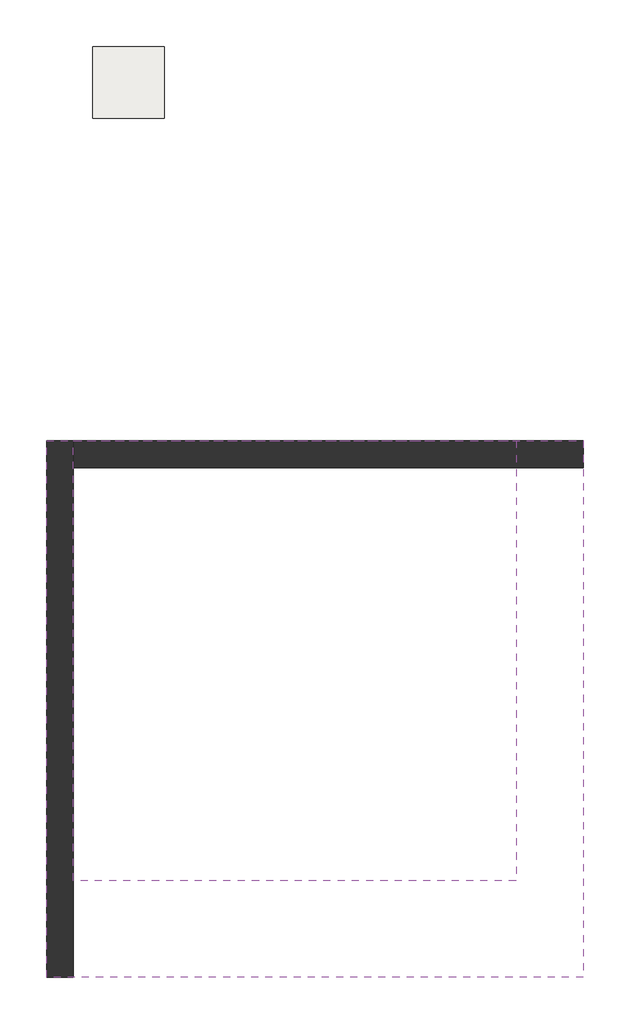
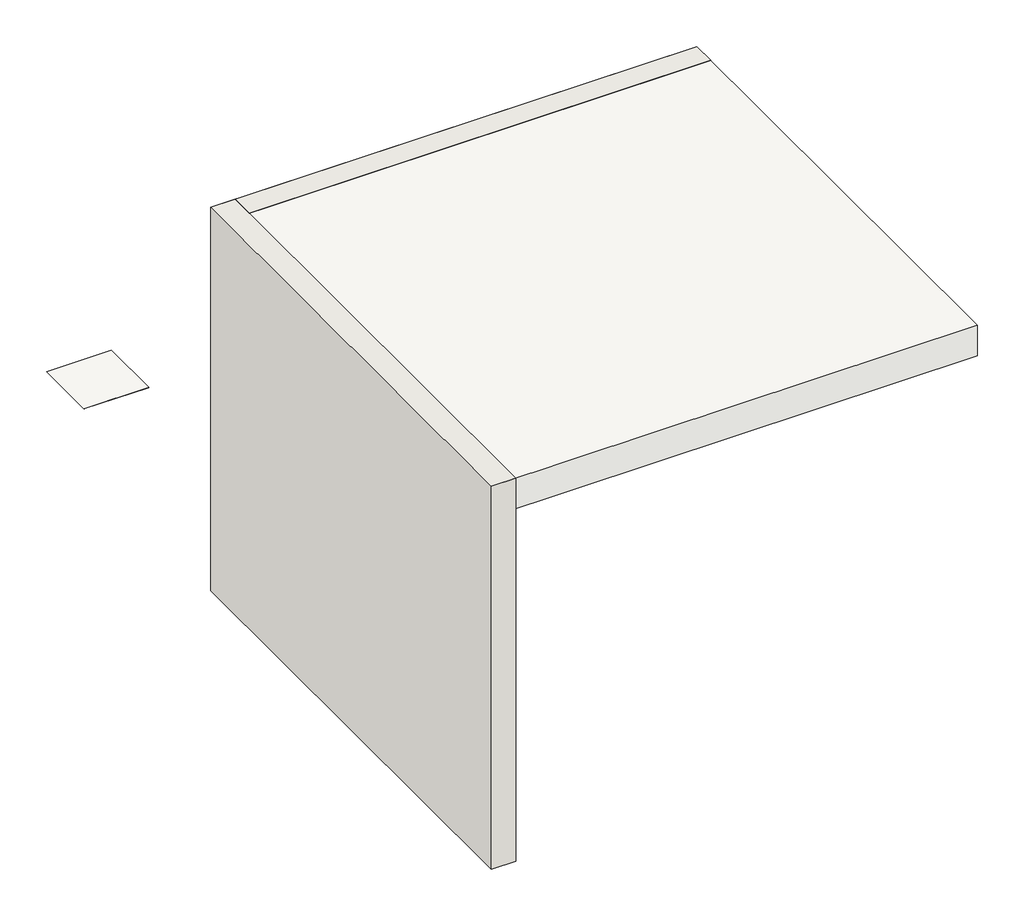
# One storey: 2 walls, 1 covering, 1 proxy, 1 slab.
"""IFC4 building model written with IfcOpenShell, lengths in millimetres."""

import ifcopenshell
import ifcopenshell.guid

model = None  # the IFC model being written
_history = None  # IfcOwnerHistory: only IFC2X3 demands one
_inside = {}  # id of a spatial element -> (the spatial element, [elements in it])
_under = {}  # id of a project, library or spatial element -> (it, [spatial elements below it])
_declared = {}  # id of a project -> (the project, [libraries it declares])
_typed = {}  # id of a type object -> (the type object, [elements of that type])
_made_of = {}  # id of a material, layer set ... -> (it, [elements and type objects made of it])


def new_model(schema):
    """Start an empty IFC model of exactly this schema.

    Asked for "IFC4X3", IfcOpenShell would pick the latest addendum, in which some entities
    have other attributes; the version numbers below select the first issue.
    IFC2X3 requires an IfcOwnerHistory on every rooted entity: one is made here for all.
    """
    global model, _history
    if schema == "IFC4X3":
        model = ifcopenshell.file(schema_version=(4, 3, 0, 0))
    else:
        model = ifcopenshell.file(schema=schema)
    _inside.clear()
    _under.clear()
    _declared.clear()
    _typed.clear()
    _made_of.clear()
    _history = None
    if model.schema == "IFC2X3":
        org = make("IfcOrganization", Name="unknown")
        user = make(
            "IfcPersonAndOrganization",
            ThePerson=make("IfcPerson", FamilyName="unknown"),
            TheOrganization=org,
        )
        app = make(
            "IfcApplication",
            ApplicationDeveloper=org,
            Version="unknown",
            ApplicationFullName="unknown",
            ApplicationIdentifier="unknown",
        )
        _history = make(
            "IfcOwnerHistory",
            OwningUser=user,
            OwningApplication=app,
            ChangeAction="ADDED",
            CreationDate=0,
        )
    return model


def make(cls, **values):
    """One entity of the class cls with the attributes given. An attribute that is None is left unset."""
    return model.create_entity(
        cls, **{name: value for name, value in values.items() if value is not None}
    )


def rooted(cls, **values):
    """An entity with a GlobalId (a new one), such as an element, a storey or a relation."""
    return make(cls, GlobalId=ifcopenshell.guid.new(), OwnerHistory=_history, **values)


def si_unit(unit_type, name, prefix=None):
    """IfcSIUnit, for example si_unit("LENGTHUNIT", "METRE", prefix="MILLI")."""
    return make("IfcSIUnit", UnitType=unit_type, Prefix=prefix, Name=name)


def assignment(units):
    """IfcUnitAssignment: the units of a project."""
    return None if units is None else make("IfcUnitAssignment", Units=units)


def point(xyz):
    """IfcCartesianPoint."""
    return None if xyz is None else make("IfcCartesianPoint", Coordinates=xyz)


def direction(xyz):
    """IfcDirection."""
    return None if xyz is None else make("IfcDirection", DirectionRatios=xyz)


def frame(location, z_axis=None, x_axis=None):
    """IfcAxis2Placement3D, a coordinate frame: its origin and axes. An axis left out is left unset."""
    return make(
        "IfcAxis2Placement3D",
        Location=point(location),
        Axis=direction(z_axis),
        RefDirection=direction(x_axis),
    )


def origin():
    """The frame at (0, 0, 0) with its axes left unset."""
    return frame((0.0, 0.0, 0.0))


def place(relative_to, where):
    """IfcLocalPlacement: puts the frame where relative to a parent placement (None: the world)."""
    return make(
        "IfcLocalPlacement", PlacementRelTo=relative_to, RelativePlacement=where
    )


def context(
    kind, dimensions, precision=None, world=None, true_north=None, identifier=None
):
    """IfcGeometricRepresentationContext, for example the 3D "Model" context."""
    return make(
        "IfcGeometricRepresentationContext",
        ContextIdentifier=identifier,
        ContextType=kind,
        CoordinateSpaceDimension=dimensions,
        Precision=precision,
        WorldCoordinateSystem=world,
        TrueNorth=true_north,
    )


def project(units=None, contexts=None):
    """IfcProject with its units and contexts."""
    return rooted(
        "IfcProject",
        Name="project",
        RepresentationContexts=contexts,
        UnitsInContext=assignment(units),
    )


def spatial(cls, under=None, at=None, **own):
    """A site, building, storey or space (cls), placed at a placement, below another one or the project."""
    s = rooted(cls, ObjectPlacement=at, **own)
    if under is not None:
        _under.setdefault(under.id(), (under, []))[1].append(s)
    return s


def polyline(points):
    """IfcPolyline through the points."""
    return make("IfcPolyline", Points=[point(p) for p in points])


def outline(outer, holes=None, kind="AREA"):
    """IfcArbitraryClosedProfileDef: a profile drawn as a closed curve; with holes, ...WithVoids."""
    if holes is None:
        return make("IfcArbitraryClosedProfileDef", ProfileType=kind, OuterCurve=outer)
    return make(
        "IfcArbitraryProfileDefWithVoids",
        ProfileType=kind,
        OuterCurve=outer,
        InnerCurves=holes,
    )


def extrude(swept, where, along, depth):
    """IfcExtrudedAreaSolid: the profile swept, set in the frame where, extruded along a direction by depth."""
    return make(
        "IfcExtrudedAreaSolid",
        SweptArea=swept,
        Position=where,
        ExtrudedDirection=direction(along),
        Depth=depth,
    )


def faces_of(points, faces, orient=None, outer=None):
    """IfcFace entities. A face is a list of loops; a loop is a list of indices into points, from 0.

    orient and outer hold one flag for each loop. By default every Orientation is true, the
    first loop of a face is its IfcFaceOuterBound and the others are IfcFaceBound.
    """
    made = []
    for i, loops in enumerate(faces):
        bounds = []
        for j, loop in enumerate(loops):
            is_outer = j == 0 if outer is None else outer[i][j]
            bounds.append(
                make(
                    "IfcFaceOuterBound" if is_outer else "IfcFaceBound",
                    Bound=make("IfcPolyLoop", Polygon=[points[k] for k in loop]),
                    Orientation=True if orient is None else orient[i][j],
                )
            )
        made.append(make("IfcFace", Bounds=bounds))
    return made


def faceted_brep(points, faces, orient=None, outer=None, voids=None):
    """IfcFacetedBrep: a solid bounded by flat faces; with voids (closed shells), ...WithVoids."""
    shared = [point(p) for p in points]
    hull = make("IfcClosedShell", CfsFaces=faces_of(shared, faces, orient, outer))
    if voids is None:
        return make("IfcFacetedBrep", Outer=hull)
    return make(
        "IfcFacetedBrepWithVoids",
        Outer=hull,
        Voids=[
            make(cls, CfsFaces=faces_of(shared, fs, o, b)) for cls, fs, o, b in voids
        ],
    )


def shape(context_of_items, identifier, shape_type, items):
    """IfcShapeRepresentation: the items that make up one representation, for example the "Body"."""
    return make(
        "IfcShapeRepresentation",
        ContextOfItems=context_of_items,
        RepresentationIdentifier=identifier,
        RepresentationType=shape_type,
        Items=items,
    )


def source(mapping_origin, context_of_items, identifier, shape_type, items):
    """IfcRepresentationMap: a shape defined once, which mapped items show again and again."""
    return make(
        "IfcRepresentationMap",
        MappingOrigin=mapping_origin,
        MappedRepresentation=shape(context_of_items, identifier, shape_type, items),
    )


def transform(
    local_origin,
    x_axis=None,
    y_axis=None,
    z_axis=None,
    scale=None,
    scale2=None,
    scale3=None,
    uniform=True,
):
    """IfcCartesianTransformationOperator3D, or its non-uniform kind. x_axis, y_axis, z_axis: its Axis1, 2, 3."""
    if uniform:
        return make(
            "IfcCartesianTransformationOperator3D",
            Axis1=direction(x_axis),
            Axis2=direction(y_axis),
            LocalOrigin=point(local_origin),
            Scale=scale,
            Axis3=direction(z_axis),
        )
    return make(
        "IfcCartesianTransformationOperator3DnonUniform",
        Axis1=direction(x_axis),
        Axis2=direction(y_axis),
        LocalOrigin=point(local_origin),
        Scale=scale,
        Axis3=direction(z_axis),
        Scale2=scale2,
        Scale3=scale3,
    )


def mapped(mapping_source, mapping_target):
    """IfcMappedItem: shows the shape of a source again, moved by a transform."""
    return make(
        "IfcMappedItem", MappingSource=mapping_source, MappingTarget=mapping_target
    )


def made_of(thing, what):
    """Note that an element or type object is made of a material, layer set ...; save() writes the relation."""
    if what is not None:
        _made_of.setdefault(what.id(), (what, []))[1].append(thing)
    return thing


def element(
    cls,
    number,
    at=None,
    inside=None,
    cuts=None,
    type_object=None,
    material=None,
    context=None,
    identifier="Body",
    shape_type=None,
    held_by="IfcProductDefinitionShape",
    body=None,
    shapes=None,
    **own,
):
    """One element of the class cls, such as IfcWall. Its Tag is "e" and its number.

    at: its placement. inside: the storey or other place that contains it. cuts: it is an
    opening in that element (IfcRelVoidsElement). A single representation is given by context,
    identifier, shape_type and body (its items); several are given by shapes. held_by: the class
    of the entity that holds the representations. save() writes the other relations.
    """
    e = rooted(cls, Tag="e%d" % number, ObjectPlacement=at, **own)
    if body is not None:
        shapes = [shape(context, identifier, shape_type, body)]
    if shapes is not None:
        e.Representation = make(held_by, Representations=shapes)
    if inside is not None:
        _inside.setdefault(inside.id(), (inside, []))[1].append(e)
    if cuts is not None:
        rooted(
            "IfcRelVoidsElement", RelatingBuildingElement=cuts, RelatedOpeningElement=e
        )
    if type_object is not None:
        _typed.setdefault(type_object.id(), (type_object, []))[1].append(e)
    return made_of(e, material)


def aggregate(whole, parts):
    """IfcRelAggregates: a whole, such as a stair, and the parts it consists of."""
    return rooted("IfcRelAggregates", RelatingObject=whole, RelatedObjects=parts)


def save(model, path):
    """Write the relations noted so far, then the file.

    IfcRelAggregates (storeys below a building ...), IfcRelContainedInSpatialStructure (elements
    in a storey), IfcRelDefinesByType, IfcRelAssociatesMaterial and IfcRelDeclares: one each for
    every whole, place, type object, material and project.
    """
    for whole, parts in _under.values():
        aggregate(whole, parts)
    for where, things in _inside.values():
        rooted(
            "IfcRelContainedInSpatialStructure",
            RelatedElements=things,
            RelatingStructure=where,
        )
    for kind, things in _typed.values():
        rooted("IfcRelDefinesByType", RelatedObjects=things, RelatingType=kind)
    for what, things in _made_of.values():
        rooted("IfcRelAssociatesMaterial", RelatedObjects=things, RelatingMaterial=what)
    for by, libraries in _declared.values():
        rooted("IfcRelDeclares", RelatingContext=by, RelatedDefinitions=libraries)
    model.write(path)


def generic_models_80ce33e3(model_context):
    return source(origin(), model_context, "Body", "SweptSolid", [
        extrude(outline(polyline([(-351.9704105, 145.8700195), (1528.6754681, 145.8700195), (1528.6754681, -1734.1299805), (-351.9704105, -1734.1299805), (-351.9704105, 145.8700195)])), frame((0.0, 0.0, 2295.4505335), z_axis=(0.0, 0.0, 1.0), x_axis=(1.0, 0.0, 0.0)), (0.0, 0.0, 1.0), 1.0),
        extrude(outline(polyline([(-351.9704105, 145.8700195), (2123.0295895, 145.8700195), (2123.0295895, -2314.1299805), (-351.9704105, -2314.1299805), (-351.9704105, 145.8700195)])), frame((0.0, 0.0, 2296.4505335), z_axis=(0.0, 0.0, 1.0), x_axis=(1.0, 0.0, 0.0)), (0.0, 0.0, 1.0), 1.0256685),
    ])


model = new_model("IFC4")

# Units and contexts
model_context = context("Model", 3, world=origin())
ifc_project = project(units=[si_unit("LENGTHUNIT", "METRE", prefix="MILLI")], contexts=[model_context])

# Site, building, storey
site = spatial("IfcSite", under=ifc_project)
building = spatial("IfcBuilding", under=site)
storey = spatial("IfcBuildingStorey", under=building, Name="ARQ Térreo", Elevation=-2.523798)

# Proxy
placement = place(None, origin())
generic_models_shape = generic_models_80ce33e3(model_context)
element("IfcBuildingElementProxy", 1, Name="IMPER:IMPER:433934 : IMPER:IMPER:433934", ObjectType="IMPER:IMPER:433934 : IMPER:IMPER:433934", at=placement, inside=storey, context=model_context, shape_type="MappedRepresentation", body=[
    mapped(generic_models_shape, transform((0.0, 0.0, 0.0), x_axis=(1.0, 0.0, 0.0), y_axis=(0.0, 1.0, 0.0), z_axis=(0.0, 0.0, 1.0))),
])

# Covering
element("IfcCovering", 2, ObjectType="IMPT - VITPOLI ECO", at=placement, inside=storey, context=model_context, shape_type="SweptSolid", body=[
    extrude(outline(polyline([(157.0103829, 2350.7680467), (157.0103829, 1950.7680467), (-242.9896171, 1950.7680467), (-242.9896171, 2350.7680467), (157.0103829, 2350.7680467)])), frame((0.0, 0.0, -2.523798), z_axis=(0.0, 0.0, 1.0), x_axis=(1.0, 0.0, 0.0)), (0.0, 0.0, 1.0), 2.0),
])

# Slab
element("IfcSlab", 3, ObjectType="Piso:LAJE CONCRETO", at=placement, inside=storey, context=model_context, shape_type="SweptSolid", body=[
    extrude(outline(polyline([(-501.9704105, 145.8700195), (2498.0295895, 145.8700195), (2498.0295895, -2854.1299805), (-501.9704105, -2854.1299805), (-501.9704105, 145.8700195)])), frame((0.0, 0.0, 2297.476202), z_axis=(0.0, 0.0, 1.0), x_axis=(1.0, 0.0, 0.0)), (0.0, 0.0, 1.0), 200.0),
])

# Walls
element("IfcWall", 4, ObjectType="Parede básica:Parede Concreto", at=placement, inside=storey, context=model_context, shape_type="Brep", body=[
    faceted_brep([(-501.9704105, 145.8700195, -2.523798), (-501.9704105, -2854.1299805, -2.523798), (-501.9704105, -2854.1299805, 2497.476202), (-501.9704105, 145.8700195, 2497.476202), (-351.9704105, 145.8700195, -2.523798), (-351.9704105, 145.8700195, 2497.476202), (-351.9704105, -4.1299805, 2497.476202), (-351.9704105, -2854.1299805, 2497.476202), (-351.9704105, -2854.1299805, -2.523798), (-351.9704105, -4.1299805, -2.523798)], [[[0, 1, 2, 3]], [[4, 5, 6, 7, 8, 9]], [[1, 0, 4, 9, 8]], [[2, 1, 8, 7]], [[3, 2, 7, 6, 5]], [[0, 3, 5, 4]]]),
])
element("IfcWall", 5, ObjectType="Parede básica:Parede Concreto", at=placement, inside=storey, context=model_context, shape_type="SweptSolid", body=[
    extrude(outline(polyline([(-351.9704105, 145.8700195), (2498.0295895, 145.8700195), (2498.0295895, -4.1299805), (-351.9704105, -4.1299805), (-351.9704105, 145.8700195)])), frame((0.0, 0.0, -2.523798), z_axis=(0.0, 0.0, 1.0), x_axis=(1.0, 0.0, 0.0)), (0.0, 0.0, 1.0), 2500.0),
])

save(model, "model.ifc")
